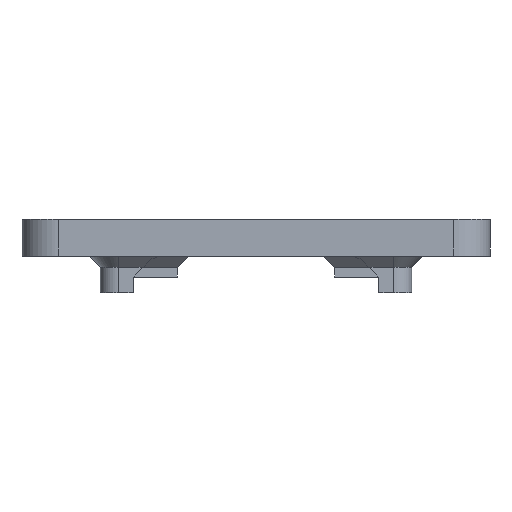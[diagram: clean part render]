
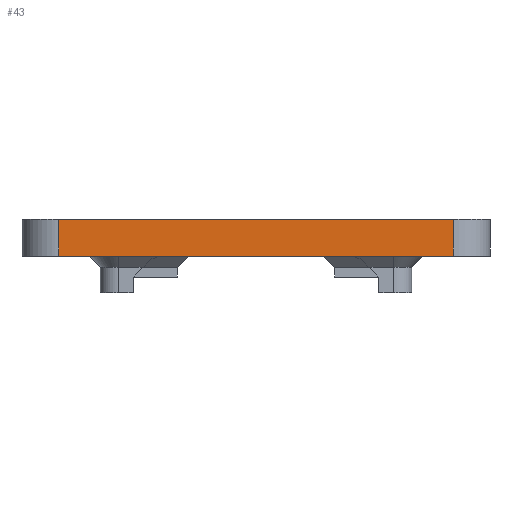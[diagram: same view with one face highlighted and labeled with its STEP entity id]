
A CAD part, left-side view. The second image highlights one B-rep face of the part: STEP entity #43.
In plain terms, the highlighted planar face has unit normal (-1, 0, 0).
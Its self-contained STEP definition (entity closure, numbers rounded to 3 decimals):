
#43=ADVANCED_FACE('',(#341),#3676,.T.);
#341=FACE_OUTER_BOUND('',#577,.T.);
#577=EDGE_LOOP('',(#989,#990,#991,#992));
#989=ORIENTED_EDGE('',*,*,#2444,.T.);
#990=ORIENTED_EDGE('',*,*,#2441,.T.);
#991=ORIENTED_EDGE('',*,*,#2438,.T.);
#992=ORIENTED_EDGE('',*,*,#2442,.F.);
#2438=EDGE_CURVE('',#3443,#3444,#2800,.T.);
#2441=EDGE_CURVE('',#3447,#3443,#2801,.T.);
#2442=EDGE_CURVE('',#3448,#3444,#2802,.T.);
#2444=EDGE_CURVE('',#3448,#3447,#2804,.T.);
#2800=B_SPLINE_CURVE_WITH_KNOTS('',1,(#7597,#7598),.UNSPECIFIED.,.F.,.F.,
(2,2),(0.,10.),.UNSPECIFIED.);
#2801=B_SPLINE_CURVE_WITH_KNOTS('',1,(#7605,#7606),.UNSPECIFIED.,.F.,.F.,
(2,2),(127.546,132.602),.UNSPECIFIED.);
#2802=B_SPLINE_CURVE_WITH_KNOTS('',1,(#7607,#7608),.UNSPECIFIED.,.F.,.F.,
(2,2),(127.546,132.602),.UNSPECIFIED.);
#2804=B_SPLINE_CURVE_WITH_KNOTS('',1,(#7611,#7612),.UNSPECIFIED.,.F.,.F.,
(2,2),(0.,10.),.UNSPECIFIED.);
#3443=VERTEX_POINT('',#5767);
#3444=VERTEX_POINT('',#5768);
#3447=VERTEX_POINT('',#5771);
#3448=VERTEX_POINT('',#5772);
#3676=PLANE('',#3889);
#3889=AXIS2_PLACEMENT_3D('',#4311,#4069,$);
#4069=DIRECTION('',(-1.,0.,0.));
#4311=CARTESIAN_POINT('',(-63.537,63.537,18.6));
#5767=CARTESIAN_POINT('',(-63.537,-53.537,18.6));
#5768=CARTESIAN_POINT('',(-63.537,-53.537,28.6));
#5771=CARTESIAN_POINT('',(-63.537,53.537,18.6));
#5772=CARTESIAN_POINT('',(-63.537,53.537,28.6));
#7597=CARTESIAN_POINT('',(-63.537,-53.537,18.6));
#7598=CARTESIAN_POINT('',(-63.537,-53.537,28.6));
#7605=CARTESIAN_POINT('',(-63.537,53.537,18.6));
#7606=CARTESIAN_POINT('',(-63.537,-53.537,18.6));
#7607=CARTESIAN_POINT('',(-63.537,53.537,28.6));
#7608=CARTESIAN_POINT('',(-63.537,-53.537,28.6));
#7611=CARTESIAN_POINT('',(-63.537,53.537,28.6));
#7612=CARTESIAN_POINT('',(-63.537,53.537,18.6));
